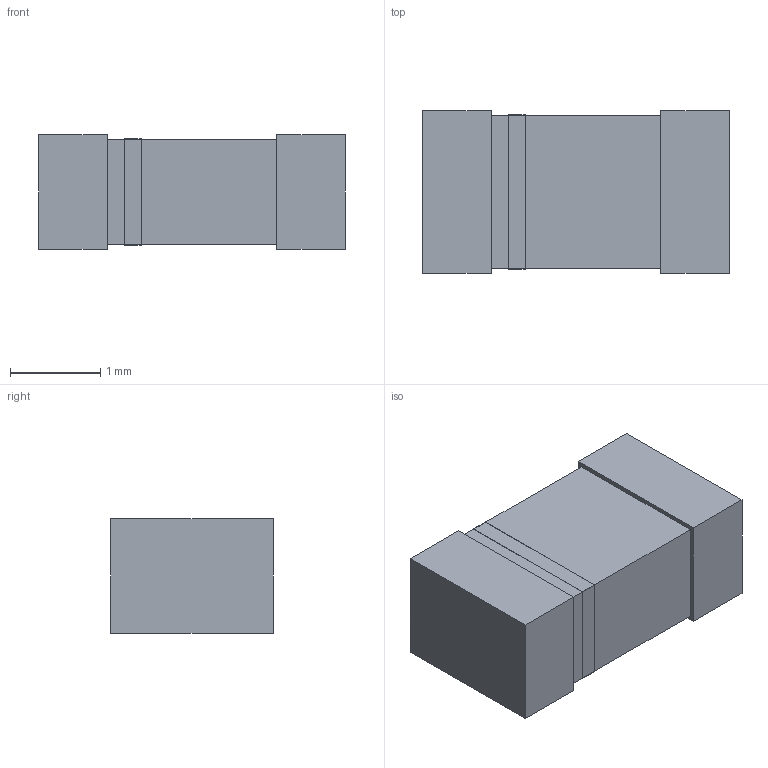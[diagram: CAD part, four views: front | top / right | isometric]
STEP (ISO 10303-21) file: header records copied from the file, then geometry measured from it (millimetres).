
FILE_DESCRIPTION(('STEP AP214'),'1');
FILE_NAME('CAP_X7R_1206_AVX','2021-08-29T12:30:20',(''),(''),'','','');
FILE_SCHEMA(('AUTOMOTIVE_DESIGN'));
Length unit declared in the file: millimetre
Products named in the file (1): product
Bounding box: 3.4 x 1.8 x 1.27 mm (x, y, z)
Volume: 7.3 mm3; surface area: 35.6 mm2
Topology: 4 solids, 4 shells, 30 faces, 64 edges, 40 vertices
Faces by surface type: plane 30
Entity records: 799 total; most frequent: ORIENTED_EDGE 128, DIRECTION 126, CARTESIAN_POINT 71, EDGE_CURVE 64, LINE 64, VECTOR 64, VERTEX_POINT 40, AXIS2_PLACEMENT_3D 31
